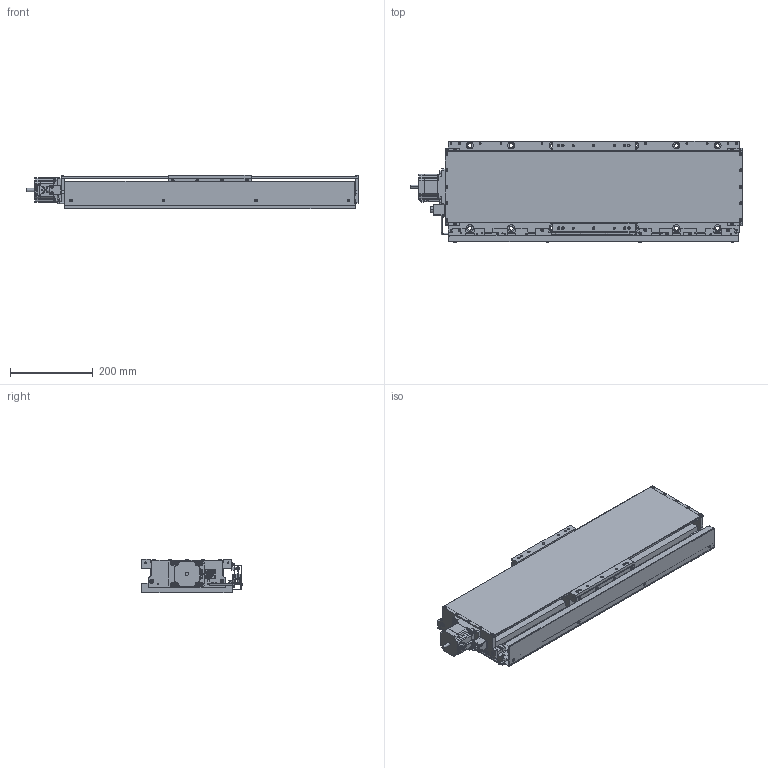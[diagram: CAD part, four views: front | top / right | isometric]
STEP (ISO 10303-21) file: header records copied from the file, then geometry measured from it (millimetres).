
FILE_DESCRIPTION (( 'STEP AP203' ), '1' );
FILE_NAME ('XA20F-L2401.STEP', '2019-05-22T03:57:56', ( '' ), ( '' ), 'SwSTEP 2.0', 'SolidWorks 2018', '' );
FILE_SCHEMA (( 'CONFIG_CONTROL_DESIGN' ));
Length unit declared in the file: millimetre
Products named in the file (8): base-Part-2; table; base-Part-1; table-Part-1; table-Part-2; XA20F-L2401; base; base-Part-3
Assembly tree (7 placements, depth 3):
  XA20F-L2401
    base
      base-Part-1
      base-Part-2
      base-Part-3
    table
      table-Part-1
      table-Part-2
Bounding box: 804 x 244.89 x 80 mm (x, y, z)
Volume: 5842217.1 mm3; surface area: 1178205 mm2
Topology: 5 solids, 5 shells, 3351 faces, 8301 edges, 5045 vertices
Faces by surface type: plane 1963, cylinder 818, cone 485, torus 46, sphere 34, bspline 5
Entity records: 98841 total; most frequent: DIRECTION 17422, CARTESIAN_POINT 17331, ORIENTED_EDGE 16270, EDGE_CURVE 8135, AXIS2_PLACEMENT_3D 6026, VECTOR 5370, LINE 5370, VERTEX_POINT 5045
